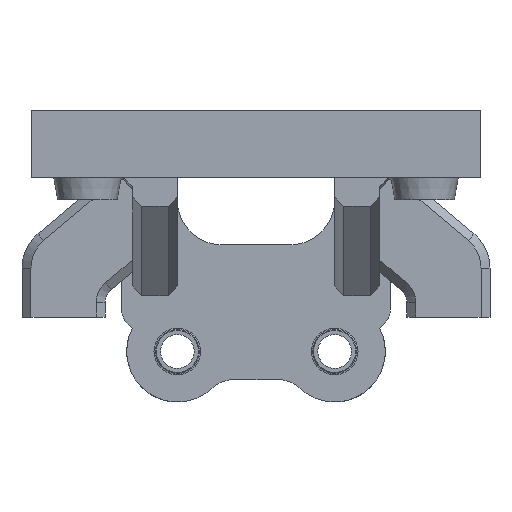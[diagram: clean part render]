
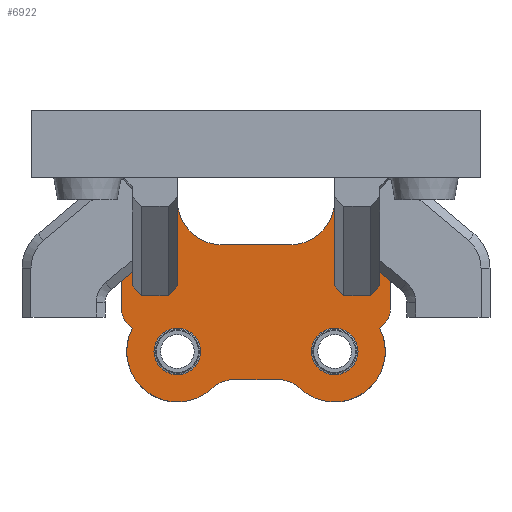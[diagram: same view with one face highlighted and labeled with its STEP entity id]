
A CAD part, front view. The second image highlights one B-rep face of the part: STEP entity #6922.
In plain terms, the highlighted planar face has unit normal (0, -1, 0).
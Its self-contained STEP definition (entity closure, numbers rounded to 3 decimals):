
#189=ELLIPSE('',#7579,2.014,2.);
#192=ELLIPSE('',#7597,2.014,2.);
#205=FACE_BOUND('',#1146,.T.);
#206=FACE_BOUND('',#1147,.T.);
#289=PLANE('',#7697);
#749=FACE_OUTER_BOUND('',#1145,.T.);
#1145=EDGE_LOOP('',(#6220,#6221,#6222,#6223,#6224,#6225,#6226,#6227,#6228,
#6229,#6230,#6231,#6232,#6233,#6234,#6235,#6236,#6237,#6238,#6239,#6240,
#6241,#6242,#6243,#6244,#6245));
#1146=EDGE_LOOP('',(#6246));
#1147=EDGE_LOOP('',(#6247));
#1275=LINE('',#19215,#1627);
#1297=LINE('',#19395,#1649);
#1308=LINE('',#19421,#1660);
#1334=LINE('',#19559,#1686);
#1344=LINE('',#19582,#1696);
#1424=LINE('',#19792,#1776);
#1454=LINE('',#19864,#1806);
#1468=LINE('',#19897,#1820);
#1471=LINE('',#19902,#1823);
#1472=LINE('',#19906,#1824);
#1473=LINE('',#19908,#1825);
#1474=LINE('',#19910,#1826);
#1475=LINE('',#19912,#1827);
#1476=LINE('',#19914,#1828);
#1477=LINE('',#19916,#1829);
#1478=LINE('',#19920,#1830);
#1479=LINE('',#19923,#1831);
#1480=LINE('',#19924,#1832);
#1627=VECTOR('',#9023,10.);
#1649=VECTOR('',#9063,10.);
#1660=VECTOR('',#9082,10.);
#1686=VECTOR('',#9134,10.);
#1696=VECTOR('',#9152,10.);
#1776=VECTOR('',#9362,10.);
#1806=VECTOR('',#9430,10.);
#1820=VECTOR('',#9468,10.);
#1823=VECTOR('',#9473,10.);
#1824=VECTOR('',#9478,10.);
#1825=VECTOR('',#9479,10.);
#1826=VECTOR('',#9480,10.);
#1827=VECTOR('',#9481,10.);
#1828=VECTOR('',#9482,10.);
#1829=VECTOR('',#9483,10.);
#1830=VECTOR('',#9486,10.);
#1831=VECTOR('',#9489,10.);
#1832=VECTOR('',#9490,10.);
#2442=CIRCLE('',#7529,2.075);
#2445=CIRCLE('',#7534,2.075);
#2446=CIRCLE('',#7538,4.5);
#2449=CIRCLE('',#7544,4.5);
#2462=CIRCLE('',#7567,3.);
#2463=CIRCLE('',#7570,3.);
#2504=CIRCLE('',#7698,4.);
#2505=CIRCLE('',#7699,4.);
#2970=VERTEX_POINT('',#19110);
#2973=VERTEX_POINT('',#19120);
#2977=VERTEX_POINT('',#19135);
#2978=VERTEX_POINT('',#19137);
#2981=VERTEX_POINT('',#19144);
#2985=VERTEX_POINT('',#19158);
#3000=VERTEX_POINT('',#19209);
#3001=VERTEX_POINT('',#19213);
#3026=VERTEX_POINT('',#19393);
#3027=VERTEX_POINT('',#19397);
#3037=VERTEX_POINT('',#19419);
#3067=VERTEX_POINT('',#19556);
#3068=VERTEX_POINT('',#19558);
#3077=VERTEX_POINT('',#19578);
#3135=VERTEX_POINT('',#19789);
#3136=VERTEX_POINT('',#19791);
#3159=VERTEX_POINT('',#19863);
#3165=VERTEX_POINT('',#19894);
#3166=VERTEX_POINT('',#19896);
#3168=VERTEX_POINT('',#19905);
#3169=VERTEX_POINT('',#19907);
#3170=VERTEX_POINT('',#19909);
#3171=VERTEX_POINT('',#19911);
#3172=VERTEX_POINT('',#19913);
#3173=VERTEX_POINT('',#19915);
#3174=VERTEX_POINT('',#19917);
#3175=VERTEX_POINT('',#19919);
#3176=VERTEX_POINT('',#19922);
#3903=EDGE_CURVE('',#2970,#2970,#2442,.T.);
#3908=EDGE_CURVE('',#2973,#2973,#2445,.T.);
#3912=EDGE_CURVE('',#2978,#2977,#2446,.T.);
#3920=EDGE_CURVE('',#2981,#2985,#2449,.T.);
#3946=EDGE_CURVE('',#3000,#2985,#2462,.T.);
#3948=EDGE_CURVE('',#3000,#3001,#1275,.T.);
#3949=EDGE_CURVE('',#2978,#3001,#2463,.T.);
#3984=EDGE_CURVE('',#3026,#2977,#1297,.T.);
#3986=EDGE_CURVE('',#3027,#3026,#189,.T.);
#3997=EDGE_CURVE('',#3037,#3027,#1308,.T.);
#4036=EDGE_CURVE('',#3068,#3067,#1334,.T.);
#4047=EDGE_CURVE('',#3077,#3067,#192,.T.);
#4048=EDGE_CURVE('',#2981,#3077,#1344,.T.);
#4153=EDGE_CURVE('',#3136,#3135,#1424,.T.);
#4190=EDGE_CURVE('',#3159,#3068,#1454,.T.);
#4206=EDGE_CURVE('',#3165,#3166,#1468,.F.);
#4209=EDGE_CURVE('',#3165,#3159,#1471,.T.);
#4210=EDGE_CURVE('',#3037,#3168,#1472,.T.);
#4211=EDGE_CURVE('',#3168,#3169,#1473,.T.);
#4212=EDGE_CURVE('',#3170,#3169,#1474,.F.);
#4213=EDGE_CURVE('',#3170,#3171,#1475,.T.);
#4214=EDGE_CURVE('',#3172,#3171,#1476,.F.);
#4215=EDGE_CURVE('',#3172,#3173,#1477,.T.);
#4216=EDGE_CURVE('',#3174,#3173,#2504,.T.);
#4217=EDGE_CURVE('',#3174,#3175,#1478,.T.);
#4218=EDGE_CURVE('',#3136,#3175,#2505,.T.);
#4219=EDGE_CURVE('',#3176,#3135,#1479,.F.);
#4220=EDGE_CURVE('',#3176,#3166,#1480,.T.);
#6220=ORIENTED_EDGE('',*,*,#3984,.F.);
#6221=ORIENTED_EDGE('',*,*,#3986,.F.);
#6222=ORIENTED_EDGE('',*,*,#3997,.F.);
#6223=ORIENTED_EDGE('',*,*,#4210,.T.);
#6224=ORIENTED_EDGE('',*,*,#4211,.T.);
#6225=ORIENTED_EDGE('',*,*,#4212,.F.);
#6226=ORIENTED_EDGE('',*,*,#4213,.T.);
#6227=ORIENTED_EDGE('',*,*,#4214,.F.);
#6228=ORIENTED_EDGE('',*,*,#4215,.T.);
#6229=ORIENTED_EDGE('',*,*,#4216,.F.);
#6230=ORIENTED_EDGE('',*,*,#4217,.T.);
#6231=ORIENTED_EDGE('',*,*,#4218,.F.);
#6232=ORIENTED_EDGE('',*,*,#4153,.T.);
#6233=ORIENTED_EDGE('',*,*,#4219,.F.);
#6234=ORIENTED_EDGE('',*,*,#4220,.T.);
#6235=ORIENTED_EDGE('',*,*,#4206,.F.);
#6236=ORIENTED_EDGE('',*,*,#4209,.T.);
#6237=ORIENTED_EDGE('',*,*,#4190,.T.);
#6238=ORIENTED_EDGE('',*,*,#4036,.T.);
#6239=ORIENTED_EDGE('',*,*,#4047,.F.);
#6240=ORIENTED_EDGE('',*,*,#4048,.F.);
#6241=ORIENTED_EDGE('',*,*,#3920,.T.);
#6242=ORIENTED_EDGE('',*,*,#3946,.F.);
#6243=ORIENTED_EDGE('',*,*,#3948,.T.);
#6244=ORIENTED_EDGE('',*,*,#3949,.F.);
#6245=ORIENTED_EDGE('',*,*,#3912,.T.);
#6246=ORIENTED_EDGE('',*,*,#3903,.T.);
#6247=ORIENTED_EDGE('',*,*,#3908,.T.);
#6922=ADVANCED_FACE('',(#749,#205,#206),#289,.T.);
#7529=AXIS2_PLACEMENT_3D('',#19112,#8925,#8926);
#7534=AXIS2_PLACEMENT_3D('',#19122,#8937,#8938);
#7538=AXIS2_PLACEMENT_3D('',#19138,#8945,#8946);
#7544=AXIS2_PLACEMENT_3D('',#19160,#8959,#8960);
#7567=AXIS2_PLACEMENT_3D('',#19211,#9018,#9019);
#7570=AXIS2_PLACEMENT_3D('',#19217,#9026,#9027);
#7579=AXIS2_PLACEMENT_3D('',#19399,#9067,#9068);
#7597=AXIS2_PLACEMENT_3D('',#19580,#9148,#9149);
#7697=AXIS2_PLACEMENT_3D('',#19904,#9476,#9477);
#7698=AXIS2_PLACEMENT_3D('',#19918,#9484,#9485);
#7699=AXIS2_PLACEMENT_3D('',#19921,#9487,#9488);
#8925=DIRECTION('center_axis',(0.,1.,0.));
#8926=DIRECTION('ref_axis',(0.,0.,1.));
#8937=DIRECTION('center_axis',(0.,1.,0.));
#8938=DIRECTION('ref_axis',(0.,0.,1.));
#8945=DIRECTION('center_axis',(0.,-1.,0.));
#8946=DIRECTION('ref_axis',(-1.,0.,0.));
#8959=DIRECTION('center_axis',(0.,-1.,0.));
#8960=DIRECTION('ref_axis',(-1.,0.,0.));
#9018=DIRECTION('center_axis',(0.,-1.,0.));
#9019=DIRECTION('ref_axis',(-0.365,0.,0.931));
#9023=DIRECTION('',(1.,0.,0.));
#9026=DIRECTION('center_axis',(0.,-1.,0.));
#9027=DIRECTION('ref_axis',(0.365,0.,0.931));
#9063=DIRECTION('',(-0.71,0.,-0.705));
#9067=DIRECTION('center_axis',(0.,1.,0.));
#9068=DIRECTION('ref_axis',(1.,0.,0.));
#9082=DIRECTION('',(0.,0.,-1.));
#9134=DIRECTION('',(0.,0.,-1.));
#9148=DIRECTION('center_axis',(0.,1.,0.));
#9149=DIRECTION('ref_axis',(-1.,0.,0.));
#9152=DIRECTION('',(-0.71,0.,0.705));
#9362=DIRECTION('',(0.,0.,-1.));
#9430=DIRECTION('',(-0.766,0.,-0.643));
#9468=DIRECTION('',(-0.683,0.,0.731));
#9473=DIRECTION('',(0.,0.,1.));
#9476=DIRECTION('center_axis',(0.,-1.,0.));
#9477=DIRECTION('ref_axis',(-1.,0.,0.));
#9478=DIRECTION('',(-0.766,0.,0.643));
#9479=DIRECTION('',(0.,0.,-1.));
#9480=DIRECTION('',(-0.683,0.,-0.731));
#9481=DIRECTION('',(-1.,0.,0.));
#9482=DIRECTION('',(-0.683,0.,0.731));
#9483=DIRECTION('',(0.,0.,1.));
#9484=DIRECTION('center_axis',(0.,-1.,0.));
#9485=DIRECTION('ref_axis',(0.707,0.,-0.707));
#9486=DIRECTION('',(-1.,0.,0.));
#9487=DIRECTION('center_axis',(0.,-1.,0.));
#9488=DIRECTION('ref_axis',(-0.707,0.,-0.707));
#9489=DIRECTION('',(-0.683,0.,-0.731));
#9490=DIRECTION('',(-1.,0.,0.));
#19110=CARTESIAN_POINT('',(-27.,-11.3,19.325));
#19112=CARTESIAN_POINT('Origin',(-27.,-11.3,21.4));
#19120=CARTESIAN_POINT('',(-13.,-11.3,19.325));
#19122=CARTESIAN_POINT('Origin',(-13.,-11.3,21.4));
#19135=CARTESIAN_POINT('',(-8.991,-11.3,23.444));
#19137=CARTESIAN_POINT('',(-16.059,-11.3,18.1));
#19138=CARTESIAN_POINT('Origin',(-13.,-11.3,21.4));
#19144=CARTESIAN_POINT('',(-31.009,-11.3,23.444));
#19158=CARTESIAN_POINT('',(-23.941,-11.3,18.1));
#19160=CARTESIAN_POINT('Origin',(-27.,-11.3,21.4));
#19209=CARTESIAN_POINT('',(-21.901,-11.3,18.9));
#19211=CARTESIAN_POINT('Origin',(-21.901,-11.3,15.9));
#19213=CARTESIAN_POINT('',(-18.099,-11.3,18.9));
#19215=CARTESIAN_POINT('',(-16.742,-11.3,18.9));
#19217=CARTESIAN_POINT('Origin',(-18.099,-11.3,15.9));
#19393=CARTESIAN_POINT('',(-8.618,-11.3,23.815));
#19395=CARTESIAN_POINT('',(-5.454,-11.3,26.957));
#19397=CARTESIAN_POINT('',(-8.028,-11.3,25.229));
#19399=CARTESIAN_POINT('Origin',(-10.042,-11.3,25.229));
#19419=CARTESIAN_POINT('',(-8.028,-11.3,27.663));
#19421=CARTESIAN_POINT('',(-8.028,-11.3,36.875));
#19556=CARTESIAN_POINT('',(-31.972,-11.3,25.229));
#19558=CARTESIAN_POINT('',(-31.972,-11.3,27.663));
#19559=CARTESIAN_POINT('',(-31.972,-11.3,36.875));
#19578=CARTESIAN_POINT('',(-31.382,-11.3,23.815));
#19580=CARTESIAN_POINT('Origin',(-29.958,-11.3,25.229));
#19582=CARTESIAN_POINT('',(-28.204,-11.3,20.659));
#19789=CARTESIAN_POINT('',(-27.,-11.3,27.232));
#19791=CARTESIAN_POINT('',(-27.,-11.3,34.875));
#19792=CARTESIAN_POINT('',(-27.,-11.3,34.25));
#19863=CARTESIAN_POINT('',(-31.,-11.3,28.479));
#19864=CARTESIAN_POINT('',(-21.101,-11.3,36.785));
#19894=CARTESIAN_POINT('',(-31.,-11.3,27.232));
#19896=CARTESIAN_POINT('',(-30.2,-11.3,26.375));
#19897=CARTESIAN_POINT('',(-28.356,-11.3,24.402));
#19902=CARTESIAN_POINT('',(-31.,-11.3,34.25));
#19904=CARTESIAN_POINT('Origin',(-8.028,-11.3,36.875));
#19905=CARTESIAN_POINT('',(-9.,-11.3,28.479));
#19906=CARTESIAN_POINT('',(-11.873,-11.3,30.89));
#19907=CARTESIAN_POINT('',(-9.,-11.3,27.232));
#19908=CARTESIAN_POINT('',(-9.,-11.3,34.25));
#19909=CARTESIAN_POINT('',(-9.8,-11.3,26.375));
#19910=CARTESIAN_POINT('',(-6.063,-11.3,30.374));
#19911=CARTESIAN_POINT('',(-12.2,-11.3,26.375));
#19912=CARTESIAN_POINT('',(-10.514,-11.3,26.375));
#19913=CARTESIAN_POINT('',(-13.,-11.3,27.232));
#19914=CARTESIAN_POINT('',(-14.033,-11.3,28.337));
#19915=CARTESIAN_POINT('',(-13.,-11.3,34.875));
#19916=CARTESIAN_POINT('',(-13.,-11.3,36.875));
#19917=CARTESIAN_POINT('',(-17.,-11.3,30.875));
#19918=CARTESIAN_POINT('Origin',(-17.,-11.3,34.875));
#19919=CARTESIAN_POINT('',(-23.,-11.3,30.875));
#19920=CARTESIAN_POINT('',(-14.014,-11.3,30.875));
#19921=CARTESIAN_POINT('Origin',(-23.,-11.3,34.875));
#19922=CARTESIAN_POINT('',(-27.8,-11.3,26.375));
#19923=CARTESIAN_POINT('',(-19.506,-11.3,35.25));
#19924=CARTESIAN_POINT('',(-17.514,-11.3,26.375));
